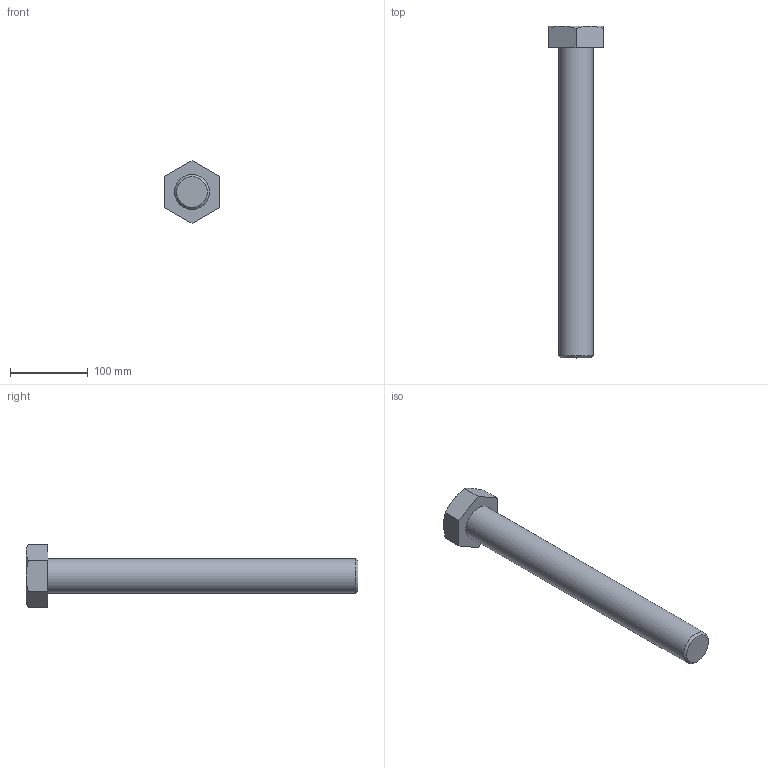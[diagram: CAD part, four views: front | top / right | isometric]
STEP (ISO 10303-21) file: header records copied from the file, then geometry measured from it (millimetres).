
FILE_DESCRIPTION(/* description */ (''),/* implementation_level */ '2;1');
FILE_NAME(/* name */ 'C:\Users\unitec\Documents\Inventor\各種小物\JIS\JIS B 1180 六角ボルト 等級C\hbc45\M45x400.stp',/* time_stamp */ '2015-02-13T14:58:21+09:00',/* author */ ('unitec'),/* organization */ (''),/* preprocessor_version */ 'ST-DEVELOPER v15.2',/* originating_system */ 'Autodesk Inventor 2014',/* authorisation */ '');
FILE_SCHEMA (('AUTOMOTIVE_DESIGN { 1 0 10303 214 3 1 1 }'));
Length unit declared in the file: millimetre
Products named in the file (1): M45x400
Bounding box: 70 x 428 x 80.83 mm (x, y, z)
Volume: 754102.4 mm3; surface area: 71388 mm2
Topology: 1 solids, 1 shells, 17 faces, 35 edges, 21 vertices
Faces by surface type: plane 9, cone 7, cylinder 1
Full cylindrical faces by diameter (mm): 45 x1
Entity records: 441 total; most frequent: CARTESIAN_POINT 96, ORIENTED_EDGE 66, DIRECTION 66, EDGE_CURVE 33, AXIS2_PLACEMENT_3D 27, VERTEX_POINT 21, EDGE_LOOP 20, ADVANCED_FACE 17
